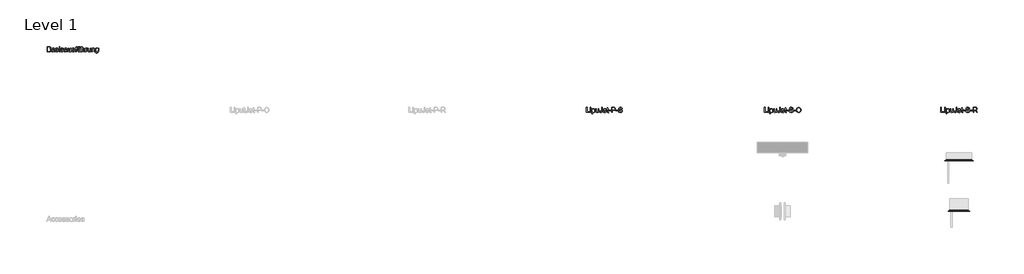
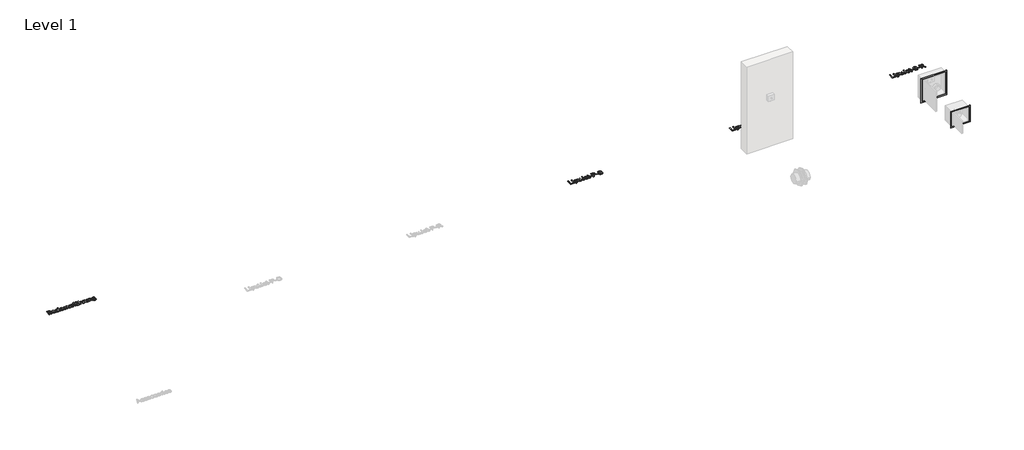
# One storey, part 2 of 3: 4 proxies, 2 furniture elements.
"""IFC4 building model written with IfcOpenShell, lengths in millimetres."""

from ifc_helpers import new_model, si_unit, origin, origin_with_axes, place, context, project, spatial, polyline, outline, extrude, transform, mapped, element, save
from components import std_dbb9a782, std_183a7562

model = new_model("IFC4")

# Units and contexts
model_context = context("Model", 3, world=origin())
ifc_project = project(units=[si_unit("LENGTHUNIT", "METRE", prefix="MILLI")], contexts=[model_context])

# Site, building, storey
site = spatial("IfcSite", under=ifc_project)
building = spatial("IfcBuilding", under=site)
storey = spatial("IfcBuildingStorey", under=building, Name="Level 1", Elevation=0.0)

# Proxies
placement = place(None, origin())
element("IfcBuildingElementProxy", 1, Name="100mm ACO", ObjectType="100mm ACO", at=placement, inside=storey, context=model_context, shape_type="SweptSolid", body=[
    extrude(outline(polyline([(-2942.8989889, 902.806713), (-2928.4024611, 893.5763889), (-2923.5992204, 878.8483796), (-2927.7369519, 863.5416667), (-2939.4991046, 853.2841435), (-2960.1732944, 850.0), (-2997.6732944, 850.0), (-2997.6732944, 950.0), (-2961.3017667, 950.0), (-2946.2518535, 948.0034722), (-2936.4030398, 942.0138889), (-2930.9668419, 933.5865162), (-2929.1547759, 924.2766204), (-2932.5691278, 912.0659722), (-2942.8989889, 902.806713)]), holes=[polyline([(-2984.7103315, 861.1111111), (-2960.0575537, 861.1111111), (-2948.8560201, 862.2793692), (-2941.6981787, 865.7841435), (-2936.5621833, 878.7037037), (-2937.9293708, 886.0930266), (-2942.0309333, 891.6521991), (-2949.6987574, 895.135272), (-2961.7647296, 896.2962963), (-2984.7103315, 896.2962963), (-2984.7103315, 861.1111111)]), polyline([(-2984.7103315, 907.4074074), (-2963.9059333, 907.4074074), (-2953.1420444, 908.1886574), (-2945.4597528, 912.3408565), (-2942.1177389, 922.8009259), (-2945.488688, 933.7818287), (-2953.5326694, 938.1076389), (-2965.5263037, 938.8888889), (-2984.7103315, 938.8888889), (-2984.7103315, 907.4074074)])]), origin_with_axes(), (0.0, 0.0, 1.0), 10.0),
    extrude(outline(polyline([(-2843.9695907, 850.0), (-2856.9325537, 850.0), (-2860.6362574, 858.7384259), (-2873.1290236, 850.7957176), (-2886.5911185, 848.1481481), (-2896.5773743, 849.5949074), (-2904.1981787, 853.9351852), (-2909.0267377, 860.6481481), (-2910.6362574, 869.212963), (-2909.0592898, 877.520978), (-2904.328387, 884.2158565), (-2895.6984681, 889.1095197), (-2882.4244519, 892.0138889), (-2871.0818593, 893.75), (-2860.6362574, 896.2962963), (-2860.969012, 904.3258102), (-2862.9076694, 909.2013889), (-2868.0726, 913.2667824), (-2877.6501463, 914.8148148), (-2889.7305861, 911.6753472), (-2895.8214426, 900.0), (-2908.7844056, 901.5914352), (-2905.2289947, 911.400463), (-2898.5558176, 918.431713), (-2888.7721081, 922.6634838), (-2875.8851, 924.0740741), (-2856.6287343, 920.2112269), (-2849.0766509, 910.8940972), (-2847.6732944, 896.8460648), (-2847.6732944, 880.3240741), (-2847.1235259, 860.0694444), (-2843.9695907, 850.0)]), holes=[polyline([(-2860.6362574, 882.4074074), (-2860.6362574, 887.037037), (-2883.9146139, 881.712963), (-2894.2336243, 877.6548032), (-2897.6732944, 869.4155093), (-2893.9695907, 860.7928241), (-2883.2925074, 857.4074074), (-2867.4794287, 863.0787037), (-2862.3470502, 870.7465278), (-2860.6362574, 882.4074074)])]), origin_with_axes(), (0.0, 0.0, 1.0), 10.0),
    extrude(outline(polyline([(-2788.4140352, 901.8518519), (-2793.2028083, 911.5740741), (-2804.2705167, 914.8148148), (-2815.5841741, 912.037037), (-2819.8955167, 903.9641204), (-2817.0454009, 896.8171296), (-2803.6050074, 892.9398148), (-2785.8822065, 888.7731481), (-2776.8399611, 882.4508102), (-2773.5992204, 871.1226852), (-2775.6102157, 862.1925637), (-2781.6432019, 854.7887731), (-2791.0399032, 849.8083044), (-2803.1420444, 848.1481481), (-2815.6167262, 849.5442708), (-2825.031512, 853.7326389), (-2831.3936359, 860.7060185), (-2834.7103315, 870.4571759), (-2821.7473685, 872.2222222), (-2816.1484102, 861.0966435), (-2803.1420444, 857.4074074), (-2790.8445907, 861.2413194), (-2786.5621833, 870.5729167), (-2788.4863731, 876.5480324), (-2793.2896139, 879.9189815), (-2806.8746833, 882.8125), (-2827.8092898, 890.625), (-2832.8584796, 903.2118056), (-2830.9885433, 911.4981192), (-2825.3787343, 918.1857639), (-2816.6077562, 922.6019965), (-2805.254313, 924.0740741), (-2793.322166, 922.7864583), (-2784.3775769, 918.9236111), (-2778.4205456, 912.4927662), (-2775.4510722, 903.5011574), (-2788.4140352, 901.8518519)])), origin_with_axes(), (0.0, 0.0, 1.0), 10.0),
    extrude(outline(polyline([(-2747.6732944, 937.037037), (-2760.6362574, 937.037037), (-2760.6362574, 950.0), (-2747.6732944, 950.0), (-2747.6732944, 937.037037)])), origin_with_axes(), (0.0, 0.0, 1.0), 10.0),
    extrude(outline(polyline([(-2747.6732944, 850.0), (-2760.6362574, 850.0), (-2760.6362574, 922.2222222), (-2747.6732944, 922.2222222), (-2747.6732944, 850.0)])), origin_with_axes(), (0.0, 0.0, 1.0), 10.0),
    extrude(outline(polyline([(-2688.4140352, 901.8518519), (-2693.2028083, 911.5740741), (-2704.2705167, 914.8148148), (-2715.5841741, 912.037037), (-2719.8955167, 903.9641204), (-2717.0454009, 896.8171296), (-2703.6050074, 892.9398148), (-2685.8822065, 888.7731481), (-2676.8399611, 882.4508102), (-2673.5992204, 871.1226852), (-2675.6102157, 862.1925637), (-2681.6432019, 854.7887731), (-2691.0399032, 849.8083044), (-2703.1420444, 848.1481481), (-2715.6167262, 849.5442708), (-2725.031512, 853.7326389), (-2731.3936359, 860.7060185), (-2734.7103315, 870.4571759), (-2721.7473685, 872.2222222), (-2716.1484102, 861.0966435), (-2703.1420444, 857.4074074), (-2690.8445907, 861.2413194), (-2686.5621833, 870.5729167), (-2688.4863731, 876.5480324), (-2693.2896139, 879.9189815), (-2706.8746833, 882.8125), (-2727.8092898, 890.625), (-2732.8584796, 903.2118056), (-2730.9885433, 911.4981192), (-2725.3787343, 918.1857639), (-2716.6077562, 922.6019965), (-2705.254313, 924.0740741), (-2693.322166, 922.7864583), (-2684.3775769, 918.9236111), (-2678.4205456, 912.4927662), (-2675.4510722, 903.5011574), (-2688.4140352, 901.8518519)])), origin_with_axes(), (0.0, 0.0, 1.0), 10.0),
    extrude(outline(polyline([(-2597.6732944, 850.0), (-2610.6362574, 850.0), (-2614.3399611, 858.7384259), (-2626.8327273, 850.7957176), (-2640.2948222, 848.1481481), (-2650.281078, 849.5949074), (-2657.9018824, 853.9351852), (-2662.7304414, 860.6481481), (-2664.3399611, 869.212963), (-2662.7629935, 877.520978), (-2658.0320907, 884.2158565), (-2649.4021718, 889.1095197), (-2636.1281556, 892.0138889), (-2624.785563, 893.75), (-2614.3399611, 896.2962963), (-2614.6727157, 904.3258102), (-2616.6113731, 909.2013889), (-2621.7763037, 913.2667824), (-2631.35385, 914.8148148), (-2643.4342898, 911.6753472), (-2649.5251463, 900.0), (-2662.4881093, 901.5914352), (-2658.9326984, 911.400463), (-2652.2595213, 918.431713), (-2642.4758118, 922.6634838), (-2629.5888037, 924.0740741), (-2610.332438, 920.2112269), (-2602.7803546, 910.8940972), (-2601.3769981, 896.8460648), (-2601.3769981, 880.3240741), (-2600.8272296, 860.0694444), (-2597.6732944, 850.0)]), holes=[polyline([(-2614.3399611, 882.4074074), (-2614.3399611, 887.037037), (-2637.6183176, 881.712963), (-2647.937328, 877.6548032), (-2651.3769981, 869.4155093), (-2647.6732944, 860.7928241), (-2636.9962111, 857.4074074), (-2621.1831324, 863.0787037), (-2616.0507539, 870.7465278), (-2614.3399611, 882.4074074)])]), origin_with_axes(), (0.0, 0.0, 1.0), 10.0),
    extrude(outline(polyline([(-2523.5992204, 850.0), (-2534.7103315, 850.0), (-2534.7103315, 860.5034722), (-2544.953387, 851.2369792), (-2557.91635, 848.1481481), (-2572.0367204, 851.6637731), (-2580.6883407, 861.3425926), (-2582.8584796, 877.34375), (-2582.8584796, 922.2222222), (-2569.8955167, 922.2222222), (-2569.8955167, 881.25), (-2568.9985259, 867.1585648), (-2564.3110259, 860.15625), (-2555.2832481, 857.4074074), (-2542.5372991, 862.3263889), (-2538.0559623, 869.8784722), (-2536.5621833, 882.6967593), (-2536.5621833, 922.2222222), (-2523.5992204, 922.2222222), (-2523.5992204, 850.0)])), origin_with_axes(), (0.0, 0.0, 1.0), 10.0),
    extrude(outline(polyline([(-2464.3399611, 901.8518519), (-2469.1287343, 911.5740741), (-2480.1964426, 914.8148148), (-2491.5101, 912.037037), (-2495.8214426, 903.9641204), (-2492.9713269, 896.8171296), (-2479.5309333, 892.9398148), (-2461.8081324, 888.7731481), (-2452.765887, 882.4508102), (-2449.5251463, 871.1226852), (-2451.5361417, 862.1925637), (-2457.5691278, 854.7887731), (-2466.9658292, 849.8083044), (-2479.0679704, 848.1481481), (-2491.5426521, 849.5442708), (-2500.957438, 853.7326389), (-2507.3195618, 860.7060185), (-2510.6362574, 870.4571759), (-2497.6732944, 872.2222222), (-2492.0743361, 861.0966435), (-2479.0679704, 857.4074074), (-2466.7705167, 861.2413194), (-2462.4881093, 870.5729167), (-2464.4122991, 876.5480324), (-2469.2155398, 879.9189815), (-2482.8006093, 882.8125), (-2503.7352157, 890.625), (-2508.7844056, 903.2118056), (-2506.9144692, 911.4981192), (-2501.3046602, 918.1857639), (-2492.5336822, 922.6019965), (-2481.1802389, 924.0740741), (-2469.2480919, 922.7864583), (-2460.3035028, 918.9236111), (-2454.3464715, 912.4927662), (-2451.3769981, 903.5011574), (-2464.3399611, 901.8518519)])), origin_with_axes(), (0.0, 0.0, 1.0), 10.0),
    extrude(outline(polyline([(-2403.22885, 950.8969907), (-2404.8202852, 942.5925926), (-2411.1281556, 942.5925926), (-2417.4360259, 940.4658565), (-2419.8955167, 929.9479167), (-2419.8955167, 922.2222222), (-2408.7844056, 922.2222222), (-2408.7844056, 912.962963), (-2419.8955167, 912.962963), (-2419.8955167, 850.0), (-2432.8584796, 850.0), (-2432.8584796, 912.962963), (-2443.9695907, 912.962963), (-2443.9695907, 922.2222222), (-2432.8584796, 922.2222222), (-2432.8584796, 930.150463), (-2431.8891509, 940.1331019), (-2426.7820907, 948.2349537), (-2414.0216741, 951.8518519), (-2403.22885, 950.8969907)])), origin_with_axes(), (0.0, 0.0, 1.0), 10.0),
    extrude(outline(polyline([(-2347.6732944, 935.1851852), (-2360.6362574, 935.1851852), (-2360.6362574, 950.0), (-2347.6732944, 950.0), (-2347.6732944, 935.1851852)])), origin_with_axes(), (0.0, 0.0, 1.0), 10.0),
    extrude(outline(polyline([(-2373.5992204, 935.1851852), (-2386.5621833, 935.1851852), (-2386.5621833, 950.0), (-2373.5992204, 950.0), (-2373.5992204, 935.1851852)])), origin_with_axes(), (0.0, 0.0, 1.0), 10.0),
    extrude(outline(polyline([(-2338.4140352, 850.0), (-2349.5251463, 850.0), (-2349.5251463, 860.5034722), (-2359.7682019, 851.2369792), (-2372.7311648, 848.1481481), (-2386.8515352, 851.6637731), (-2395.5031556, 861.3425926), (-2397.6732944, 877.34375), (-2397.6732944, 922.2222222), (-2384.7103315, 922.2222222), (-2384.7103315, 881.25), (-2383.8133407, 867.1585648), (-2379.1258407, 860.15625), (-2370.098063, 857.4074074), (-2357.3521139, 862.3263889), (-2352.8707771, 869.8784722), (-2351.3769981, 882.6967593), (-2351.3769981, 922.2222222), (-2338.4140352, 922.2222222), (-2338.4140352, 850.0)])), origin_with_axes(), (0.0, 0.0, 1.0), 10.0),
    extrude(outline(polyline([(-2260.6362574, 850.0), (-2273.5992204, 850.0), (-2273.5992204, 896.7013889), (-2277.2884565, 910.2864583), (-2288.2982944, 914.8148148), (-2301.2323222, 909.4762731), (-2305.5074958, 902.0435475), (-2306.9325537, 890.4224537), (-2306.9325537, 850.0), (-2319.8955167, 850.0), (-2319.8955167, 950.0), (-2306.9325537, 950.0), (-2306.9325537, 914.1782407), (-2297.2320329, 921.6001157), (-2285.3758407, 924.0740741), (-2272.0945907, 921.2094907), (-2263.1970213, 912.3987269), (-2260.6362574, 895.8912037), (-2260.6362574, 850.0)])), origin_with_axes(), (0.0, 0.0, 1.0), 10.0),
    extrude(outline(polyline([(-2203.22885, 921.2384259), (-2207.2797759, 912.962963), (-2215.7867204, 914.8148148), (-2221.5809912, 913.1872106), (-2225.7693593, 908.3043981), (-2229.1547759, 890.0752315), (-2229.1547759, 850.0), (-2242.1177389, 850.0), (-2242.1177389, 922.2222222), (-2231.0066278, 922.2222222), (-2231.0066278, 911.5162037), (-2224.0766509, 920.9346065), (-2215.6420444, 924.0740741), (-2203.22885, 921.2384259)])), origin_with_axes(), (0.0, 0.0, 1.0), 10.0),
    extrude(outline(polyline([(-2136.5621833, 850.0), (-2147.6732944, 850.0), (-2147.6732944, 860.5034722), (-2157.91635, 851.2369792), (-2170.879313, 848.1481481), (-2184.9996833, 851.6637731), (-2193.6513037, 861.3425926), (-2195.8214426, 877.34375), (-2195.8214426, 922.2222222), (-2182.8584796, 922.2222222), (-2182.8584796, 881.25), (-2181.9614889, 867.1585648), (-2177.2739889, 860.15625), (-2168.2462111, 857.4074074), (-2155.500262, 862.3263889), (-2151.0189252, 869.8784722), (-2149.5251463, 882.6967593), (-2149.5251463, 922.2222222), (-2136.5621833, 922.2222222), (-2136.5621833, 850.0)])), origin_with_axes(), (0.0, 0.0, 1.0), 10.0),
    extrude(outline(polyline([(-2058.7844056, 850.0), (-2071.7473685, 850.0), (-2071.7473685, 894.9652778), (-2075.6102157, 910.5613426), (-2086.359637, 914.8148148), (-2096.3856787, 912.0949074), (-2103.0986417, 904.4270833), (-2105.0807019, 890.4224537), (-2105.0807019, 850.0), (-2118.0436648, 850.0), (-2118.0436648, 922.2222222), (-2106.9325537, 922.2222222), (-2106.9325537, 912.181713), (-2097.0367204, 921.1082176), (-2083.7844056, 924.0740741), (-2072.4128778, 922.0196759), (-2063.6165815, 915.8709491), (-2059.6090583, 907.1325231), (-2058.7844056, 894.5891204), (-2058.7844056, 850.0)])), origin_with_axes(), (0.0, 0.0, 1.0), 10.0),
    extrude(outline(polyline([(-1981.0066278, 860.6481481), (-1984.0592898, 838.0063657), (-1994.9244519, 826.3744213), (-2013.5876463, 822.2222222), (-2024.8036475, 823.6291956), (-2033.9724843, 827.8501157), (-2040.0814252, 835.2756076), (-2042.1177389, 846.2962963), (-2029.1547759, 844.2418981), (-2024.5830167, 834.6788194), (-2013.3851, 831.4814815), (-2000.0749148, 835.1707176), (-1994.9099843, 844.1550926), (-1993.9695907, 858.7673611), (-2002.7441856, 852.1918403), (-2013.5587111, 850.0), (-2025.9502042, 852.6114005), (-2035.6362574, 860.4456019), (-2041.8862574, 872.2583912), (-2043.9695907, 886.8055556), (-2041.9875306, 901.4467593), (-2036.04135, 913.4259259), (-2026.594012, 921.412037), (-2014.1084796, 924.0740741), (-2003.0335375, 921.6941551), (-1994.2300074, 914.5543981), (-1993.9695907, 922.2222222), (-1981.0066278, 922.2222222), (-1981.0066278, 860.6481481)]), holes=[polyline([(-2011.6200537, 859.2592593), (-2004.4079588, 860.865162), (-1998.0494519, 865.6828704), (-1993.6006671, 874.2766204), (-1992.1177389, 887.2106481), (-1993.5319461, 898.9981192), (-1997.7745676, 907.6822917), (-2004.1005225, 913.031684), (-2011.7647296, 914.8148148), (-2019.4868072, 912.9882813), (-2025.6391509, 907.5086806), (-2029.6647586, 898.8534433), (-2031.0066278, 887.5), (-2029.5996544, 874.7829861), (-2025.3787343, 866.0300926), (-2019.1251174, 860.9519676), (-2011.6200537, 859.2592593)])]), origin_with_axes(), (0.0, 0.0, 1.0), 10.0),
])
element("IfcBuildingElementProxy", 2, Name="100mm ACO", ObjectType="100mm ACO", at=placement, inside=storey, context=model_context, shape_type="SweptSolid", body=[
    extrude(outline(polyline([(7710.1851852, -350.0), (7647.2222222, -350.0), (7647.2222222, -250.0), (7660.1851852, -250.0), (7660.1851852, -338.8888889), (7710.1851852, -338.8888889), (7710.1851852, -350.0)])), origin_with_axes(), (0.0, 0.0, 1.0), 10.0),
    extrude(outline(polyline([(7736.1111111, -350.0), (7723.1481481, -350.0), (7723.1481481, -277.7777778), (7736.1111111, -277.7777778), (7736.1111111, -350.0)])), origin_with_axes(), (0.0, 0.0, 1.0), 10.0),
    extrude(outline(polyline([(7736.1111111, -262.962963), (7723.1481481, -262.962963), (7723.1481481, -250.0), (7736.1111111, -250.0), (7736.1111111, -262.962963)])), origin_with_axes(), (0.0, 0.0, 1.0), 10.0),
    extrude(outline(polyline([(7767.7228009, -286.4872685), (7776.1791088, -278.5662616), (7787.8472222, -275.9259259), (7800.1736111, -278.515625), (7809.6064815, -286.2847222), (7815.5960648, -298.2132523), (7817.5925926, -313.28125), (7815.3356481, -329.1702836), (7808.5648148, -341.4207176), (7798.509838, -349.2440683), (7786.400463, -351.8518519), (7776.0271991, -349.7251157), (7767.9398148, -343.3449074), (7767.5925926, -377.7777778), (7754.6296296, -377.7777778), (7754.6296296, -277.7777778), (7767.5925926, -277.7777778), (7767.7228009, -286.4872685)]), holes=[polyline([(7784.9826389, -342.5925926), (7792.755353, -340.766059), (7799.0596065, -335.2864583), (7803.2371238, -326.1899595), (7804.6296296, -313.5127315), (7803.2877604, -301.4359086), (7799.2621528, -292.5202546), (7793.145978, -287.0189525), (7785.5324074, -285.1851852), (7777.6511863, -287.2287326), (7771.3107639, -293.359375), (7767.1332465, -302.7452257), (7765.7407407, -314.5543981), (7767.0753762, -326.66739), (7771.0792824, -335.4600694), (7777.2243924, -340.8094618), (7784.9826389, -342.5925926)])]), origin_with_axes(), (0.0, 0.0, 1.0), 10.0),
    extrude(outline(polyline([(7891.6666667, -350.0), (7880.5555556, -350.0), (7880.5555556, -339.4965278), (7870.3125, -348.7630208), (7857.349537, -351.8518519), (7843.2291667, -348.3362269), (7834.5775463, -338.6574074), (7832.4074074, -322.65625), (7832.4074074, -277.7777778), (7845.3703704, -277.7777778), (7845.3703704, -318.75), (7846.2673611, -332.8414352), (7850.9548611, -339.84375), (7859.9826389, -342.5925926), (7872.728588, -337.6736111), (7877.2099248, -330.1215278), (7878.7037037, -317.3032407), (7878.7037037, -277.7777778), (7891.6666667, -277.7777778), (7891.6666667, -350.0)])), origin_with_axes(), (0.0, 0.0, 1.0), 10.0),
    extrude(outline(polyline([(7960.1851852, -318.1134259), (7958.3116319, -333.8143808), (7952.6909722, -344.1695602), (7943.7282986, -349.9312789), (7931.8287037, -351.8518519), (7919.9291088, -349.9891493), (7911.4293981, -344.4010417), (7906.3295718, -335.0730613), (7904.6296296, -321.9907407), (7917.5925926, -320.3703704), (7921.4554398, -335.6481481), (7932.5231481, -340.7407407), (7942.4623843, -337.5), (7946.4699074, -330.0202546), (7947.2222222, -319.4444444), (7947.2222222, -250.0), (7960.1851852, -250.0), (7960.1851852, -318.1134259)])), origin_with_axes(), (0.0, 0.0, 1.0), 10.0),
    extrude(outline(polyline([(8041.6666667, -316.6666667), (7987.962963, -316.6666667), (7990.0354456, -327.7922454), (7994.7482639, -335.9375), (8001.5299479, -340.9288194), (8009.8090278, -342.5925926), (8021.484375, -338.9033565), (8028.7037037, -327.7777778), (8041.6666667, -329.2824074), (8037.2902199, -338.9033565), (8030.3530093, -346.0069444), (8021.1082176, -350.390625), (8009.8090278, -351.8518519), (7995.2220775, -349.3453414), (7984.2158565, -341.8258102), (7977.3039641, -329.9660012), (7975.0, -314.4386574), (7977.2207755, -298.900463), (7983.8831019, -286.6030093), (7994.5818866, -278.5951968), (8008.912037, -275.9259259), (8024.1319444, -279.3836806), (8036.5596065, -291.1603009), (8040.3899016, -301.6963252), (8041.6666667, -316.6666667)]), holes=[polyline([(8028.7037037, -307.4074074), (8026.6203704, -297.2511574), (8021.875, -290.3935185), (8008.59375, -285.1851852), (8000.7378472, -286.7332176), (7994.4155093, -291.3773148), (7987.962963, -307.4074074), (8028.7037037, -307.4074074)])]), origin_with_axes(), (0.0, 0.0, 1.0), 10.0),
    extrude(outline(polyline([(8084.2592593, -351.0127315), (8075.1736111, -351.8518519), (8063.5850694, -348.9728009), (8059.1435185, -341.6666667), (8058.3333333, -329.3402778), (8058.3333333, -287.037037), (8049.0740741, -287.037037), (8049.0740741, -277.7777778), (8058.3333333, -277.7777778), (8058.3333333, -259.4328704), (8071.2962963, -251.8518519), (8071.2962963, -277.7777778), (8082.4074074, -277.7777778), (8082.4074074, -287.037037), (8071.2962963, -287.037037), (8071.2962963, -331.9444444), (8072.337963, -340.162037), (8077.6331019, -342.5925926), (8082.6678241, -342.5925926), (8084.2592593, -351.0127315)])), origin_with_axes(), (0.0, 0.0, 1.0), 10.0),
    extrude(outline(polyline([(8128.7037037, -316.6666667), (8089.8148148, -316.6666667), (8089.8148148, -307.4074074), (8128.7037037, -307.4074074), (8128.7037037, -316.6666667)])), origin_with_axes(), (0.0, 0.0, 1.0), 10.0),
    extrude(outline(polyline([(8143.5185185, -250.0), (8181.0763889, -250.0), (8196.3831019, -250.8825231), (8208.3043981, -255.46875), (8216.6232639, -265.5237269), (8219.4444444, -278.8194444), (8217.2200521, -291.2507234), (8210.546875, -300.9403935), (8198.969184, -307.1795428), (8182.03125, -309.2592593), (8156.4814815, -309.2592593), (8156.4814815, -350.0), (8143.5185185, -350.0), (8143.5185185, -250.0)]), holes=[polyline([(8156.4814815, -298.1481481), (8182.5520833, -298.1481481), (8200.4991319, -293.4100116), (8204.9858941, -287.4873409), (8206.4814815, -279.1956019), (8203.3709491, -268.2146991), (8195.7320602, -262.2829861), (8182.2627315, -261.1111111), (8156.4814815, -261.1111111), (8156.4814815, -298.1481481)])]), origin_with_axes(), (0.0, 0.0, 1.0), 10.0),
    extrude(outline(polyline([(8267.5925926, -316.6666667), (8228.7037037, -316.6666667), (8228.7037037, -307.4074074), (8267.5925926, -307.4074074), (8267.5925926, -316.6666667)])), origin_with_axes(), (0.0, 0.0, 1.0), 10.0),
    extrude(outline(polyline([(8339.8148148, -279.6296296), (8337.8038194, -270.7356771), (8333.3333333, -264.3663194), (8317.0138889, -259.2592593), (8301.3888889, -263.2378472), (8296.875, -268.1242766), (8295.3703704, -274.8263889), (8299.8408565, -284.8813657), (8318.0266204, -291.1747685), (8337.8616898, -296.6579861), (8351.0127315, -305.5844907), (8355.114294, -312.6663773), (8356.4814815, -321.8171296), (8353.9749711, -333.6552373), (8346.4554398, -343.3015046), (8334.906684, -349.714265), (8320.3125, -351.8518519), (8302.3292824, -349.4791667), (8289.525463, -342.3611111), (8281.712963, -331.4670139), (8278.7037037, -317.7662037), (8291.6666667, -316.6666667), (8294.2961516, -327.5426794), (8300.5063657, -334.9971065), (8309.3424479, -339.3048322), (8319.849537, -340.7407407), (8336.9791667, -336.009838), (8341.8836806, -330.4361979), (8343.5185185, -323.1770833), (8341.8294271, -315.8492477), (8336.7621528, -310.8217593), (8313.4837963, -303.3709491), (8299.2730035, -299.0306713), (8289.6846065, -293.1568287), (8284.2267072, -285.5287905), (8282.4074074, -275.9259259), (8284.6896701, -264.9305556), (8291.5364583, -256.0185185), (8302.3184317, -250.1157407), (8316.40625, -248.1481481), (8330.9678819, -250.1302083), (8342.3611111, -256.0763889), (8349.8697917, -265.6684028), (8352.7777778, -278.587963), (8339.8148148, -279.6296296)])), origin_with_axes(), (0.0, 0.0, 1.0), 10.0),
])
element("IfcBuildingElementProxy", 3, Name="100mm ACO", ObjectType="100mm ACO", at=placement, inside=storey, context=model_context, shape_type="SweptSolid", body=[
    extrude(outline(polyline([(11222.6140462, -350.0), (11159.6510833, -350.0), (11159.6510833, -250.0), (11172.6140462, -250.0), (11172.6140462, -338.8888889), (11222.6140462, -338.8888889), (11222.6140462, -350.0)])), origin_with_axes(), (0.0, 0.0, 1.0), 10.0),
    extrude(outline(polyline([(11248.5399721, -262.962963), (11235.5770092, -262.962963), (11235.5770092, -250.0), (11248.5399721, -250.0), (11248.5399721, -262.962963)])), origin_with_axes(), (0.0, 0.0, 1.0), 10.0),
    extrude(outline(polyline([(11248.5399721, -350.0), (11235.5770092, -350.0), (11235.5770092, -277.7777778), (11248.5399721, -277.7777778), (11248.5399721, -350.0)])), origin_with_axes(), (0.0, 0.0, 1.0), 10.0),
    extrude(outline(polyline([(11280.151662, -286.4872685), (11288.6079698, -278.5662616), (11300.2760833, -275.9259259), (11312.6024721, -278.515625), (11322.0353425, -286.2847222), (11328.0249258, -298.2132523), (11330.0214536, -313.28125), (11327.7645092, -329.1702836), (11320.9936758, -341.4207176), (11310.938699, -349.2440683), (11298.829324, -351.8518519), (11288.4560601, -349.7251157), (11280.3686758, -343.3449074), (11280.0214536, -377.7777778), (11267.0584907, -377.7777778), (11267.0584907, -277.7777778), (11280.0214536, -277.7777778), (11280.151662, -286.4872685)]), holes=[polyline([(11297.4114999, -342.5925926), (11305.184214, -340.766059), (11311.4884675, -335.2864583), (11315.6659849, -326.1899595), (11317.0584907, -313.5127315), (11315.7166214, -301.4359086), (11311.6910138, -292.5202546), (11305.574839, -287.0189525), (11297.9612684, -285.1851852), (11290.0800474, -287.2287326), (11283.7396249, -293.359375), (11279.5621076, -302.7452257), (11278.1696018, -314.5543981), (11279.5042372, -326.66739), (11283.5081434, -335.4600694), (11289.6532534, -340.8094618), (11297.4114999, -342.5925926)])]), origin_with_axes(), (0.0, 0.0, 1.0), 10.0),
    extrude(outline(polyline([(11404.0955277, -350.0), (11392.9844166, -350.0), (11392.9844166, -339.4965278), (11382.741361, -348.7630208), (11369.7783981, -351.8518519), (11355.6580277, -348.3362269), (11347.0064073, -338.6574074), (11344.8362684, -322.65625), (11344.8362684, -277.7777778), (11357.7992314, -277.7777778), (11357.7992314, -318.75), (11358.6962221, -332.8414352), (11363.3837221, -339.84375), (11372.4114999, -342.5925926), (11385.157449, -337.6736111), (11389.6387858, -330.1215278), (11391.1325647, -317.3032407), (11391.1325647, -277.7777778), (11404.0955277, -277.7777778), (11404.0955277, -350.0)])), origin_with_axes(), (0.0, 0.0, 1.0), 10.0),
    extrude(outline(polyline([(11472.6140462, -318.1134259), (11470.740493, -333.8143808), (11465.1198333, -344.1695602), (11456.1571596, -349.9312789), (11444.2575647, -351.8518519), (11432.3579698, -349.9891493), (11423.8582592, -344.4010417), (11418.7584328, -335.0730613), (11417.0584907, -321.9907407), (11430.0214536, -320.3703704), (11433.8843008, -335.6481481), (11444.9520092, -340.7407407), (11454.8912453, -337.5), (11458.8987684, -330.0202546), (11459.6510833, -319.4444444), (11459.6510833, -250.0), (11472.6140462, -250.0), (11472.6140462, -318.1134259)])), origin_with_axes(), (0.0, 0.0, 1.0), 10.0),
    extrude(outline(polyline([(11554.0955277, -316.6666667), (11500.391824, -316.6666667), (11502.4643066, -327.7922454), (11507.1771249, -335.9375), (11513.9588089, -340.9288194), (11522.2378888, -342.5925926), (11533.913236, -338.9033565), (11541.1325647, -327.7777778), (11554.0955277, -329.2824074), (11549.7190809, -338.9033565), (11542.7818703, -346.0069444), (11533.5370786, -350.390625), (11522.2378888, -351.8518519), (11507.6509386, -349.3453414), (11496.6447175, -341.8258102), (11489.7328252, -329.9660012), (11487.428861, -314.4386574), (11489.6496365, -298.900463), (11496.3119629, -286.6030093), (11507.0107476, -278.5951968), (11521.3408981, -275.9259259), (11536.5608055, -279.3836806), (11548.9884675, -291.1603009), (11552.8187627, -301.6963252), (11554.0955277, -316.6666667)]), holes=[polyline([(11541.1325647, -307.4074074), (11539.0492314, -297.2511574), (11534.303861, -290.3935185), (11521.022611, -285.1851852), (11513.1667083, -286.7332176), (11506.8443703, -291.3773148), (11500.391824, -307.4074074), (11541.1325647, -307.4074074)])]), origin_with_axes(), (0.0, 0.0, 1.0), 10.0),
    extrude(outline(polyline([(11596.6881203, -351.0127315), (11587.6024721, -351.8518519), (11576.0139305, -348.9728009), (11571.5723796, -341.6666667), (11570.7621944, -329.3402778), (11570.7621944, -287.037037), (11561.5029351, -287.037037), (11561.5029351, -277.7777778), (11570.7621944, -277.7777778), (11570.7621944, -259.4328704), (11583.7251573, -251.8518519), (11583.7251573, -277.7777778), (11594.8362684, -277.7777778), (11594.8362684, -287.037037), (11583.7251573, -287.037037), (11583.7251573, -331.9444444), (11584.766824, -340.162037), (11590.0619629, -342.5925926), (11595.0966851, -342.5925926), (11596.6881203, -351.0127315)])), origin_with_axes(), (0.0, 0.0, 1.0), 10.0),
    extrude(outline(polyline([(11641.1325647, -316.6666667), (11602.2436758, -316.6666667), (11602.2436758, -307.4074074), (11641.1325647, -307.4074074), (11641.1325647, -316.6666667)])), origin_with_axes(), (0.0, 0.0, 1.0), 10.0),
    extrude(outline(polyline([(11713.354787, -279.6296296), (11711.3437916, -270.7356771), (11706.8733055, -264.3663194), (11690.553861, -259.2592593), (11674.928861, -263.2378472), (11670.4149721, -268.1242766), (11668.9103425, -274.8263889), (11673.3808286, -284.8813657), (11691.5665925, -291.1747685), (11711.401662, -296.6579861), (11724.5527036, -305.5844907), (11728.6542661, -312.6663773), (11730.0214536, -321.8171296), (11727.5149432, -333.6552373), (11719.995412, -343.3015046), (11708.4466562, -349.714265), (11693.8524721, -351.8518519), (11675.8692546, -349.4791667), (11663.0654351, -342.3611111), (11655.2529351, -331.4670139), (11652.2436758, -317.7662037), (11665.2066388, -316.6666667), (11667.8361238, -327.5426794), (11674.0463379, -334.9971065), (11682.8824201, -339.3048322), (11693.3895092, -340.7407407), (11710.5191388, -336.009838), (11715.4236527, -330.4361979), (11717.0584907, -323.1770833), (11715.3693992, -315.8492477), (11710.3021249, -310.8217593), (11687.0237684, -303.3709491), (11672.8129756, -299.0306713), (11663.2245786, -293.1568287), (11657.7666793, -285.5287905), (11655.9473796, -275.9259259), (11658.2296423, -264.9305556), (11665.0764305, -256.0185185), (11675.8584039, -250.1157407), (11689.9462221, -248.1481481), (11704.5078541, -250.1302083), (11715.9010833, -256.0763889), (11723.4097638, -265.6684028), (11726.3177499, -278.587963), (11713.354787, -279.6296296)])), origin_with_axes(), (0.0, 0.0, 1.0), 10.0),
    extrude(outline(polyline([(11780.0214536, -316.6666667), (11741.1325647, -316.6666667), (11741.1325647, -307.4074074), (11780.0214536, -307.4074074), (11780.0214536, -316.6666667)])), origin_with_axes(), (0.0, 0.0, 1.0), 10.0),
    extrude(outline(polyline([(11837.5156666, -248.1481481), (11856.0052499, -251.7216435), (11870.7911296, -262.4421296), (11880.4916504, -279.0147569), (11883.7251573, -300.1446759), (11880.4735659, -321.1841725), (11870.7187916, -337.6591435), (11855.9148275, -348.3036748), (11837.5156666, -351.8518519), (11818.6426921, -348.1734664), (11803.8640462, -337.1383102), (11794.3154351, -320.808015), (11791.1325647, -301.244213), (11794.3588379, -279.1630498), (11804.0376573, -262.3408565), (11818.8597059, -251.6963252), (11837.5156666, -248.1481481)]), holes=[polyline([(11837.3999258, -340.7407407), (11850.8403194, -338.0570023), (11861.4739999, -330.005787), (11868.4112106, -317.1730324), (11870.7621944, -300.1446759), (11868.4075937, -282.7365451), (11861.3437916, -269.8640046), (11850.7137279, -261.9104456), (11837.6603425, -259.2592593), (11824.3139883, -261.8561921), (11813.5573333, -269.6469907), (11806.4609791, -282.8052662), (11804.0955277, -301.5046296), (11806.4103425, -317.3864294), (11813.354787, -329.9045139), (11823.9957013, -338.031684), (11837.3999258, -340.7407407)])]), origin_with_axes(), (0.0, 0.0, 1.0), 10.0),
])
element("IfcBuildingElementProxy", 4, Name="100mm ACO", ObjectType="100mm ACO", at=placement, inside=storey, context=model_context, shape_type="SweptSolid", body=[
    extrude(outline(polyline([(14706.4814815, -350.0), (14643.5185185, -350.0), (14643.5185185, -250.0), (14656.4814815, -250.0), (14656.4814815, -338.8888889), (14706.4814815, -338.8888889), (14706.4814815, -350.0)])), origin_with_axes(), (0.0, 0.0, 1.0), 10.0),
    extrude(outline(polyline([(14732.4074074, -262.962963), (14719.4444444, -262.962963), (14719.4444444, -250.0), (14732.4074074, -250.0), (14732.4074074, -262.962963)])), origin_with_axes(), (0.0, 0.0, 1.0), 10.0),
    extrude(outline(polyline([(14732.4074074, -350.0), (14719.4444444, -350.0), (14719.4444444, -277.7777778), (14732.4074074, -277.7777778), (14732.4074074, -350.0)])), origin_with_axes(), (0.0, 0.0, 1.0), 10.0),
    extrude(outline(polyline([(14764.0190972, -286.4872685), (14772.4754051, -278.5662616), (14784.1435185, -275.9259259), (14796.4699074, -278.515625), (14805.9027778, -286.2847222), (14811.8923611, -298.2132523), (14813.8888889, -313.28125), (14811.6319444, -329.1702836), (14804.8611111, -341.4207176), (14794.8061343, -349.2440683), (14782.6967593, -351.8518519), (14772.3234954, -349.7251157), (14764.2361111, -343.3449074), (14763.8888889, -377.7777778), (14750.9259259, -377.7777778), (14750.9259259, -277.7777778), (14763.8888889, -277.7777778), (14764.0190972, -286.4872685)]), holes=[polyline([(14781.2789352, -342.5925926), (14789.0516493, -340.766059), (14795.3559028, -335.2864583), (14799.5334201, -326.1899595), (14800.9259259, -313.5127315), (14799.5840567, -301.4359086), (14795.5584491, -292.5202546), (14789.4422743, -287.0189525), (14781.8287037, -285.1851852), (14773.9474826, -287.2287326), (14767.6070602, -293.359375), (14763.4295428, -302.7452257), (14762.037037, -314.5543981), (14763.3716725, -326.66739), (14767.3755787, -335.4600694), (14773.5206887, -340.8094618), (14781.2789352, -342.5925926)])]), origin_with_axes(), (0.0, 0.0, 1.0), 10.0),
    extrude(outline(polyline([(14887.962963, -350.0), (14876.8518519, -350.0), (14876.8518519, -339.4965278), (14866.6087963, -348.7630208), (14853.6458333, -351.8518519), (14839.525463, -348.3362269), (14830.8738426, -338.6574074), (14828.7037037, -322.65625), (14828.7037037, -277.7777778), (14841.6666667, -277.7777778), (14841.6666667, -318.75), (14842.5636574, -332.8414352), (14847.2511574, -339.84375), (14856.2789352, -342.5925926), (14869.0248843, -337.6736111), (14873.5062211, -330.1215278), (14875.0, -317.3032407), (14875.0, -277.7777778), (14887.962963, -277.7777778), (14887.962963, -350.0)])), origin_with_axes(), (0.0, 0.0, 1.0), 10.0),
    extrude(outline(polyline([(14956.4814815, -318.1134259), (14954.6079282, -333.8143808), (14948.9872685, -344.1695602), (14940.0245949, -349.9312789), (14928.125, -351.8518519), (14916.2254051, -349.9891493), (14907.7256944, -344.4010417), (14902.6258681, -335.0730613), (14900.9259259, -321.9907407), (14913.8888889, -320.3703704), (14917.7517361, -335.6481481), (14928.8194444, -340.7407407), (14938.7586806, -337.5), (14942.7662037, -330.0202546), (14943.5185185, -319.4444444), (14943.5185185, -250.0), (14956.4814815, -250.0), (14956.4814815, -318.1134259)])), origin_with_axes(), (0.0, 0.0, 1.0), 10.0),
    extrude(outline(polyline([(15037.962963, -316.6666667), (14984.2592593, -316.6666667), (14986.3317419, -327.7922454), (14991.0445602, -335.9375), (14997.8262442, -340.9288194), (15006.1053241, -342.5925926), (15017.7806713, -338.9033565), (15025.0, -327.7777778), (15037.962963, -329.2824074), (15033.5865162, -338.9033565), (15026.6493056, -346.0069444), (15017.4045139, -350.390625), (15006.1053241, -351.8518519), (14991.5183738, -349.3453414), (14980.5121528, -341.8258102), (14973.6002604, -329.9660012), (14971.2962963, -314.4386574), (14973.5170718, -298.900463), (14980.1793981, -286.6030093), (14990.8781829, -278.5951968), (15005.2083333, -275.9259259), (15020.4282407, -279.3836806), (15032.8559028, -291.1603009), (15036.6861979, -301.6963252), (15037.962963, -316.6666667)]), holes=[polyline([(15025.0, -307.4074074), (15022.9166667, -297.2511574), (15018.1712963, -290.3935185), (15004.8900463, -285.1851852), (14997.0341435, -286.7332176), (14990.7118056, -291.3773148), (14984.2592593, -307.4074074), (15025.0, -307.4074074)])]), origin_with_axes(), (0.0, 0.0, 1.0), 10.0),
    extrude(outline(polyline([(15080.5555556, -351.0127315), (15071.4699074, -351.8518519), (15059.8813657, -348.9728009), (15055.4398148, -341.6666667), (15054.6296296, -329.3402778), (15054.6296296, -287.037037), (15045.3703704, -287.037037), (15045.3703704, -277.7777778), (15054.6296296, -277.7777778), (15054.6296296, -259.4328704), (15067.5925926, -251.8518519), (15067.5925926, -277.7777778), (15078.7037037, -277.7777778), (15078.7037037, -287.037037), (15067.5925926, -287.037037), (15067.5925926, -331.9444444), (15068.6342593, -340.162037), (15073.9293981, -342.5925926), (15078.9641204, -342.5925926), (15080.5555556, -351.0127315)])), origin_with_axes(), (0.0, 0.0, 1.0), 10.0),
    extrude(outline(polyline([(15125.0, -316.6666667), (15086.1111111, -316.6666667), (15086.1111111, -307.4074074), (15125.0, -307.4074074), (15125.0, -316.6666667)])), origin_with_axes(), (0.0, 0.0, 1.0), 10.0),
    extrude(outline(polyline([(15197.2222222, -279.6296296), (15195.2112269, -270.7356771), (15190.7407407, -264.3663194), (15174.4212963, -259.2592593), (15158.7962963, -263.2378472), (15154.2824074, -268.1242766), (15152.7777778, -274.8263889), (15157.2482639, -284.8813657), (15175.4340278, -291.1747685), (15195.2690972, -296.6579861), (15208.4201389, -305.5844907), (15212.5217014, -312.6663773), (15213.8888889, -321.8171296), (15211.3823785, -333.6552373), (15203.8628472, -343.3015046), (15192.3140914, -349.714265), (15177.7199074, -351.8518519), (15159.7366898, -349.4791667), (15146.9328704, -342.3611111), (15139.1203704, -331.4670139), (15136.1111111, -317.7662037), (15149.0740741, -316.6666667), (15151.703559, -327.5426794), (15157.9137731, -334.9971065), (15166.7498553, -339.3048322), (15177.2569444, -340.7407407), (15194.3865741, -336.009838), (15199.291088, -330.4361979), (15200.9259259, -323.1770833), (15199.2368345, -315.8492477), (15194.1695602, -310.8217593), (15170.8912037, -303.3709491), (15156.6804109, -299.0306713), (15147.0920139, -293.1568287), (15141.6341146, -285.5287905), (15139.8148148, -275.9259259), (15142.0970775, -264.9305556), (15148.9438657, -256.0185185), (15159.7258391, -250.1157407), (15173.8136574, -248.1481481), (15188.3752894, -250.1302083), (15199.7685185, -256.0763889), (15207.2771991, -265.6684028), (15210.1851852, -278.587963), (15197.2222222, -279.6296296)])), origin_with_axes(), (0.0, 0.0, 1.0), 10.0),
    extrude(outline(polyline([(15263.8888889, -316.6666667), (15225.0, -316.6666667), (15225.0, -307.4074074), (15263.8888889, -307.4074074), (15263.8888889, -316.6666667)])), origin_with_axes(), (0.0, 0.0, 1.0), 10.0),
    extrude(outline(polyline([(15366.2037037, -350.0), (15351.2152778, -350.0), (15332.4508102, -320.1388889), (15324.681713, -311.009838), (15316.9560185, -306.4959491), (15307.3784722, -305.5555556), (15291.6666667, -305.5555556), (15291.6666667, -350.0), (15278.7037037, -350.0), (15278.7037037, -250.0), (15322.8298611, -250.0), (15338.0063657, -251.1429398), (15348.7413194, -255.9461806), (15355.8449074, -265.1765046), (15358.3333333, -276.9097222), (15356.5176505, -286.9610822), (15351.0706019, -294.8350694), (15342.2019676, -300.3797743), (15330.1215278, -303.443287), (15339.7786458, -310.9302662), (15348.8425926, -322.5983796), (15366.2037037, -350.0)]), holes=[polyline([(15291.6666667, -294.4444444), (15320.4282407, -294.4444444), (15334.2158565, -292.96875), (15342.3321759, -287.2251157), (15345.3703704, -277.6331019), (15340.3211806, -265.9288194), (15333.6335359, -262.3155382), (15323.6689815, -261.1111111), (15291.6666667, -261.1111111), (15291.6666667, -294.4444444)])]), origin_with_axes(), (0.0, 0.0, 1.0), 10.0),
])

# Furniture
std_shape = std_dbb9a782(model_context)
element("IfcFurniture", 5, ObjectType="ZZZ_do not use_GM_ST_WPB_flushframe_ACO : std", at=placement, inside=storey, context=model_context, shape_type="MappedRepresentation", body=[
    mapped(std_shape, transform((15000.0, -1300.0, 250.0), x_axis=(1.0, 0.0, 0.0), y_axis=(0.0, 0.0, 1.0), z_axis=(0.0, -1.0, 0.0))),
])
std_2_shape = std_183a7562(model_context)
element("IfcFurniture", 6, ObjectType="ZZZ_do not use_GM_ST_WPB_flushframe_ACO : std", at=placement, inside=storey, context=model_context, shape_type="MappedRepresentation", body=[
    mapped(std_2_shape, transform((15000.0, -2300.0, 165.0), x_axis=(1.0, 0.0, 0.0), y_axis=(0.0, 0.0, 1.0), z_axis=(0.0, -1.0, 0.0))),
])

save(model, "model.ifc")
